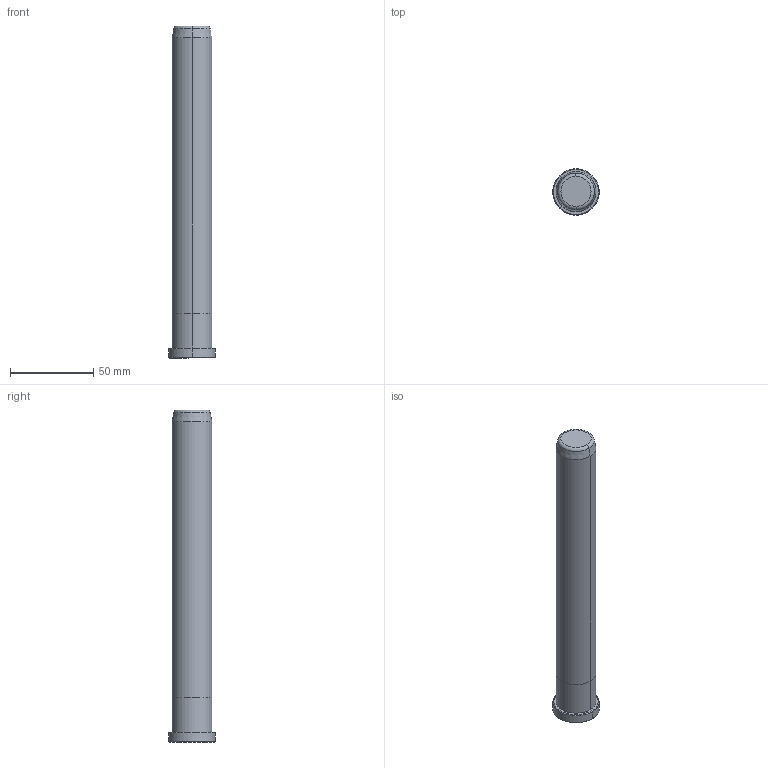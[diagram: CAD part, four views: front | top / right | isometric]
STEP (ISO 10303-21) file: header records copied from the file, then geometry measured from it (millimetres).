
FILE_DESCRIPTION((''),'2;1');
FILE_NAME('B82824200','2018-01-22T',('MANU'),(''),'PRO/ENGINEER BY PARAMETRIC TECHNOLOGY CORPORATION, 2012130','PRO/ENGINEER BY PARAMETRIC TECHNOLOGY CORPORATION, 2012130','');
FILE_SCHEMA(('CONFIG_CONTROL_DESIGN'));
Length unit declared in the file: millimetre
Products named in the file (1): B82824200
Bounding box: 28 x 28 x 200 mm (x, y, z)
Volume: 91100.5 mm3; surface area: 16188.5 mm2
Topology: 1 solids, 1 shells, 18 faces, 34 edges, 20 vertices
Faces by surface type: cone 6, cylinder 6, plane 4, torus 2
Entity records: 494 total; most frequent: DIRECTION 92, CARTESIAN_POINT 72, ORIENTED_EDGE 68, AXIS2_PLACEMENT_3D 40, EDGE_CURVE 34, CIRCLE 22, VERTEX_POINT 20, EDGE_LOOP 20
